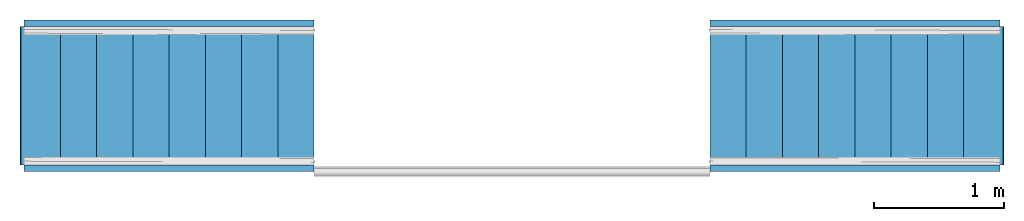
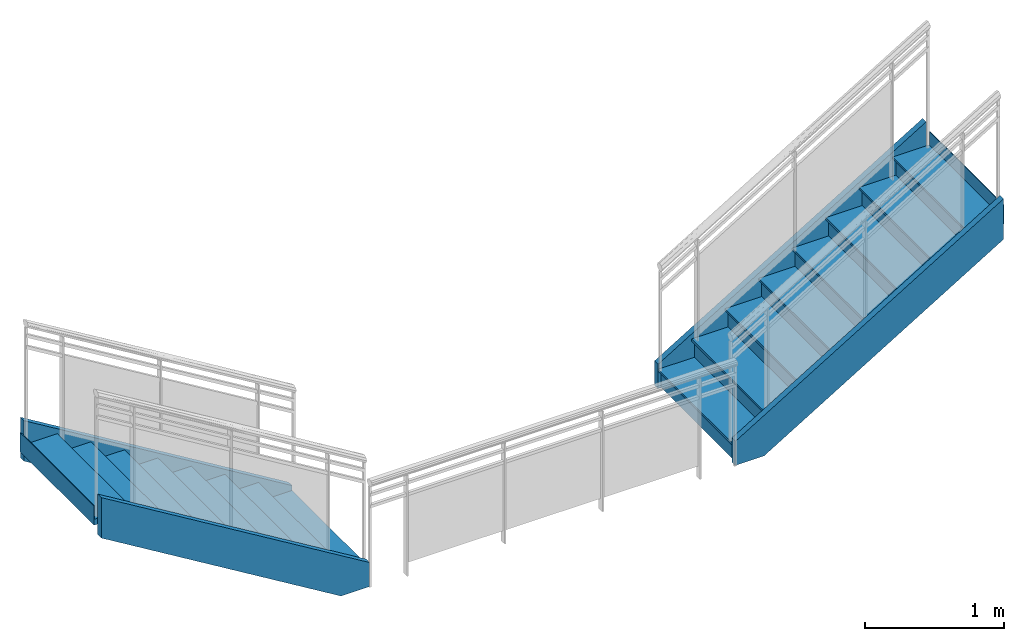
# One storey, part 1 of 4: 4 members, 2 stair flights, 2 elements without a shape of their own.
"""IFC2X3 building model written with IfcOpenShell, lengths in feet."""

from ifc_helpers import new_model, entity, si_unit, converted_unit, derived_unit, direction, frame, frame_2d, origin, origin_2d_with_axis, place, context, subcontext, project, spatial, polyline, rectangle, outline, extrude, type_object, element, aggregate, save


model = new_model("IFC2X3")

# Units and contexts
model_context = context("Model", 3, precision=0.0001, world=origin(), true_north=direction((6.12303176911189e-17, 1.0)))
body_context = subcontext(model_context, "Body", "Model", "MODEL_VIEW")
ifc_project = project(units=[converted_unit("LENGTHUNIT", "FOOT", entity("IfcRatioMeasure", 0.3048), si_unit("LENGTHUNIT", "METRE"), dimensions=[1, 0, 0, 0, 0, 0, 0]), converted_unit("AREAUNIT", "SQUARE FOOT", entity("IfcRatioMeasure", 0.09290304), si_unit("AREAUNIT", "SQUARE_METRE"), dimensions=[2, 0, 0, 0, 0, 0, 0]), converted_unit("VOLUMEUNIT", "CUBIC FOOT", entity("IfcRatioMeasure", 0.028316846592), si_unit("VOLUMEUNIT", "CUBIC_METRE"), dimensions=[3, 0, 0, 0, 0, 0, 0]), converted_unit("PLANEANGLEUNIT", "DEGREE", entity("IfcRatioMeasure", 0.0174532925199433), si_unit("PLANEANGLEUNIT", "RADIAN"), dimensions=[0, 0, 0, 0, 0, 0, 0]), si_unit("MASSUNIT", "GRAM", prefix="KILO"), derived_unit("MASSDENSITYUNIT", [(si_unit("MASSUNIT", "GRAM", prefix="KILO"), 1), (si_unit("LENGTHUNIT", "METRE"), -3)]), si_unit("TIMEUNIT", "SECOND"), si_unit("FREQUENCYUNIT", "HERTZ"), si_unit("THERMODYNAMICTEMPERATUREUNIT", "DEGREE_CELSIUS"), derived_unit("THERMALTRANSMITTANCEUNIT", [(si_unit("MASSUNIT", "GRAM", prefix="KILO"), 1), (si_unit("THERMODYNAMICTEMPERATUREUNIT", "KELVIN"), -1), (si_unit("TIMEUNIT", "SECOND"), -3)]), derived_unit("VOLUMETRICFLOWRATEUNIT", [(si_unit("LENGTHUNIT", "METRE"), 3), (si_unit("TIMEUNIT", "SECOND"), -1)]), si_unit("ELECTRICCURRENTUNIT", "AMPERE"), si_unit("ELECTRICVOLTAGEUNIT", "VOLT"), si_unit("POWERUNIT", "WATT"), si_unit("FORCEUNIT", "NEWTON"), si_unit("ILLUMINANCEUNIT", "LUX"), si_unit("LUMINOUSFLUXUNIT", "LUMEN"), si_unit("LUMINOUSINTENSITYUNIT", "CANDELA"), derived_unit("USERDEFINED", [(si_unit("MASSUNIT", "GRAM", prefix="KILO"), -1), (si_unit("LENGTHUNIT", "METRE"), -2), (si_unit("TIMEUNIT", "SECOND"), 3), (si_unit("LUMINOUSFLUXUNIT", "LUMEN"), 1)]), derived_unit("LINEARVELOCITYUNIT", [(si_unit("LENGTHUNIT", "METRE"), 1), (si_unit("TIMEUNIT", "SECOND"), -1)]), si_unit("PRESSUREUNIT", "PASCAL"), derived_unit("USERDEFINED", [(si_unit("LENGTHUNIT", "METRE"), -2), (si_unit("MASSUNIT", "GRAM", prefix="KILO"), 1), (si_unit("TIMEUNIT", "SECOND"), -2)])], contexts=[model_context])

# Site, building, storey
site_placement = place(None, origin())
site = spatial("IfcSite", under=ifc_project, at=site_placement, Name="Default", CompositionType="ELEMENT")
building_placement = place(site_placement, origin())
building = spatial("IfcBuilding", under=site, at=building_placement, CompositionType="ELEMENT")
storey_placement = place(building_placement, frame((0.0, 0.0, 55.0)))
storey = spatial("IfcBuildingStorey", under=building, at=storey_placement, Name="L 10", CompositionType="ELEMENT", Elevation=54.9999999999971)

# Stair, members
stair_1_placement = place(storey_placement, origin())
stair_1 = element("IfcStair", 1, at=stair_1_placement, inside=storey, Name="Assembled Stair:Stair", ObjectType="Assembled Stair:7\" max riser 11\" tread", ShapeType="NOTDEFINED")
member_type = type_object("IfcMemberType", Name="Stringer:Stringer - 2\" Width", PredefinedType="STRINGER")
member_1_placement = place(stair_1_placement, origin())
member_1 = element("IfcMember", 2, at=member_1_placement, type_object=member_type, Name="Assembled Stair:Stair:206445 Stringer 1", ObjectType="Assembled Stair:7\" max riser 11\" tread", context=body_context, shape_type="SweptSolid", body=[
    extrude(outline(polyline([(-3.08955742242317, -1.96146201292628), (-2.30843697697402, -1.96146201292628), (4.24377591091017, 2.00957610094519), (4.24377591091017, 3.17889618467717), (-3.08955742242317, -1.26554825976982), (-3.08955742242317, -1.96146201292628)])), frame((-42.0813868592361, -15.3369745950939, 1.96146201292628), z_axis=(0.0, 1.0, 0.0), x_axis=(-1.0, 0.0, 0.0)), (0.0, 0.0, 1.0), 0.166666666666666),
])
member_2_placement = place(stair_1_placement, origin())
member_2 = element("IfcMember", 3, at=member_2_placement, type_object=member_type, Name="Assembled Stair:Stair:206445 Stringer 2", ObjectType="Assembled Stair:7\" max riser 11\" tread", context=body_context, shape_type="SweptSolid", body=[
    extrude(outline(polyline([(-3.08955742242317, -1.96146201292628), (-2.30843697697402, -1.96146201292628), (4.24377591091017, 2.00957610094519), (4.24377591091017, 3.17889618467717), (-3.08955742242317, -1.26554825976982), (-3.08955742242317, -1.96146201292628)])), frame((-42.0813868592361, -11.6703079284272, 1.96146201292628), z_axis=(0.0, 1.0, 0.0), x_axis=(-1.0, 0.0, 0.0)), (0.0, 0.0, 1.0), 0.166666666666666),
])

stair_2_placement = place(storey_placement, origin())
stair_2 = element("IfcStair", 4, at=stair_2_placement, inside=storey, Name="Assembled Stair:Stair", ObjectType="Assembled Stair:7\" max riser 11\" tread", ShapeType="NOTDEFINED")
member_3_placement = place(stair_2_placement, origin())
member_3 = element("IfcMember", 5, at=member_3_placement, type_object=member_type, Name="Assembled Stair:Stair:206840 Stringer 1", ObjectType="Assembled Stair:7\" max riser 11\" tread", context=body_context, shape_type="SweptSolid", body=[
    extrude(outline(polyline([(-3.29811864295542, -0.519028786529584), (5.27689530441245, -0.519028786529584), (4.6708346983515, 0.480971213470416), (-2.99079942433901, 0.480971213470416), (-3.65881193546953, 0.0761151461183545), (-3.29811864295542, -0.519028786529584)])), frame((-25.9022720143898, -15.3369745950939, 1.96146201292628), z_axis=(0.0, 1.0, 0.0), x_axis=(0.855197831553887, 0.0, 0.518301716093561)), (0.0, 0.0, 1.0), 0.166666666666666),
])
member_4_placement = place(stair_2_placement, origin())
member_4 = element("IfcMember", 6, at=member_4_placement, type_object=member_type, Name="Assembled Stair:Stair:206840 Stringer 2", ObjectType="Assembled Stair:7\" max riser 11\" tread", context=body_context, shape_type="SweptSolid", body=[
    extrude(outline(polyline([(-3.29811864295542, -0.519028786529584), (5.27689530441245, -0.519028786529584), (4.6708346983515, 0.480971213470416), (-2.99079942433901, 0.480971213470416), (-3.65881193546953, 0.0761151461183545), (-3.29811864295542, -0.519028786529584)])), frame((-25.9022720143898, -11.6703079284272, 1.96146201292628), z_axis=(0.0, 1.0, 0.0), x_axis=(0.855197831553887, 0.0, 0.518301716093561)), (0.0, 0.0, 1.0), 0.166666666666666),
])

# Stair flight
stair_flight_1_placement = place(stair_1_placement, origin())
stair_flight_1 = element("IfcStairFlight", 7, at=stair_flight_1_placement, Name="Assembled Stair:Stair:206445 Run 1", ObjectType="Assembled Stair:7\" max riser 11\" tread", NumberOfRiser=9, NumberOfTreads=8, RiserHeight=0.555555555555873, TreadLength=0.916666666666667, context=body_context, shape_type="SweptSolid", body=[
    extrude(outline(polyline([(-0.0902777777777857, -0.361111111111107), (-0.0277777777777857, -0.361111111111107), (0.05555555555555, -0.277777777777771), (0.0763888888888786, -0.277777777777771), (0.0763888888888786, 0.638888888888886), (-0.0902777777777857, 0.638888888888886), (-0.0902777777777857, -0.361111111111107)])), frame((-39.352940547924, -15.1703079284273, 0.465277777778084), z_axis=(0.0, 1.0, 0.0), x_axis=(0.0, 0.0, -1.0)), (0.0, 0.0, 1.0), 3.5),
    extrude(rectangle(XDim=3.5, YDim=0.0208333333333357, at=frame_2d((0.0, -3.5527136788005e-15), x_axis=(1.0, 0.0))), frame((-39.0855794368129, -13.4203079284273, 0.0), z_axis=(0.0, 0.0, 1.0), x_axis=(0.0, -1.0, 0.0)), (0.0, 0.0, 1.0), 0.388888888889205),
    extrude(rectangle(XDim=3.5, YDim=0.0208333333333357, at=origin_2d_with_axis()), frame((-40.0022461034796, -13.4203079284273, 0.388888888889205), z_axis=(0.0, 0.0, 1.0), x_axis=(0.0, -1.0, 0.0)), (0.0, 0.0, 1.0), 0.555555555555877),
    extrude(outline(polyline([(-0.0902777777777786, -0.361111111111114), (-0.0277777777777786, -0.361111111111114), (0.05555555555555, -0.277777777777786), (0.0763888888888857, -0.277777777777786), (0.0763888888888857, 0.638888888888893), (-0.0902777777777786, 0.638888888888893), (-0.0902777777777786, -0.361111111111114)])), frame((-40.2696072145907, -15.1703079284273, 1.02083333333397), z_axis=(0.0, 1.0, 0.0), x_axis=(0.0, 0.0, -1.0)), (0.0, 0.0, 1.0), 3.5),
    extrude(rectangle(XDim=3.5, YDim=0.0208333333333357, at=origin_2d_with_axis()), frame((-40.9189127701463, -13.4203079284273, 0.944444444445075), z_axis=(0.0, 0.0, 1.0), x_axis=(0.0, -1.0, 0.0)), (0.0, 0.0, 1.0), 0.555555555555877),
    extrude(outline(polyline([(-0.0902777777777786, -0.361111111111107), (-0.0277777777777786, -0.361111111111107), (0.05555555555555, -0.277777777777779), (0.0763888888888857, -0.277777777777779), (0.0763888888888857, 0.6388888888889), (-0.0902777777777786, 0.6388888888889), (-0.0902777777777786, -0.361111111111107)])), frame((-41.1862738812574, -15.1703079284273, 1.57638888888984), z_axis=(0.0, 1.0, 0.0), x_axis=(0.0, 0.0, -1.0)), (0.0, 0.0, 1.0), 3.5),
    extrude(rectangle(XDim=3.5, YDim=0.0208333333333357, at=origin_2d_with_axis()), frame((-41.8355794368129, -13.4203079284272, 1.50000000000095), z_axis=(0.0, 0.0, 1.0), x_axis=(0.0, -1.0, 0.0)), (0.0, 0.0, 1.0), 0.555555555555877),
    extrude(outline(polyline([(-0.0902777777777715, -0.361111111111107), (-0.0277777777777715, -0.361111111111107), (0.0555555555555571, -0.277777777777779), (0.0763888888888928, -0.277777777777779), (0.0763888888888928, 0.6388888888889), (-0.0902777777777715, 0.6388888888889), (-0.0902777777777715, -0.361111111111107)])), frame((-42.102940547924, -15.1703079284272, 2.13194444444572), z_axis=(0.0, 1.0, 0.0), x_axis=(0.0, 0.0, -1.0)), (0.0, 0.0, 1.0), 3.5),
    extrude(rectangle(XDim=3.5, YDim=0.0208333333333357, at=origin_2d_with_axis()), frame((-42.7522461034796, -13.4203079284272, 2.05555555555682), z_axis=(0.0, 0.0, 1.0), x_axis=(0.0, -1.0, 0.0)), (0.0, 0.0, 1.0), 0.555555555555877),
    extrude(outline(polyline([(-0.0902777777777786, -0.361111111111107), (-0.0277777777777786, -0.361111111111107), (0.05555555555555, -0.277777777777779), (0.0763888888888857, -0.277777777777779), (0.0763888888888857, 0.6388888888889), (-0.0902777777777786, 0.6388888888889), (-0.0902777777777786, -0.361111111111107)])), frame((-43.0196072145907, -15.1703079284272, 2.68750000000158), z_axis=(0.0, 1.0, 0.0), x_axis=(0.0, 0.0, -1.0)), (0.0, 0.0, 1.0), 3.5),
    extrude(rectangle(XDim=3.5, YDim=0.0208333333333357, at=frame_2d((0.0, -7.105427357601e-15), x_axis=(1.0, 0.0))), frame((-43.6689127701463, -13.4203079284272, 2.6111111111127), z_axis=(0.0, 0.0, 1.0), x_axis=(0.0, -1.0, 0.0)), (0.0, 0.0, 1.0), 0.555555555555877),
    extrude(outline(polyline([(-0.0902777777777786, -0.361111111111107), (-0.0277777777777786, -0.361111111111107), (0.05555555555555, -0.277777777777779), (0.0763888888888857, -0.277777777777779), (0.0763888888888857, 0.6388888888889), (-0.0902777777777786, 0.6388888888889), (-0.0902777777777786, -0.361111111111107)])), frame((-43.9362738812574, -15.1703079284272, 3.24305555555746), z_axis=(0.0, 1.0, 0.0), x_axis=(0.0, 0.0, -1.0)), (0.0, 0.0, 1.0), 3.5),
    extrude(rectangle(XDim=3.5, YDim=0.0208333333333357, at=origin_2d_with_axis()), frame((-44.5855794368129, -13.4203079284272, 3.16666666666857), z_axis=(0.0, 0.0, 1.0), x_axis=(0.0, -1.0, 0.0)), (0.0, 0.0, 1.0), 0.555555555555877),
    extrude(outline(polyline([(-0.0902777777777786, -0.361111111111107), (-0.0277777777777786, -0.361111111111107), (0.05555555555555, -0.277777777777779), (0.0763888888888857, -0.277777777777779), (0.0763888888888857, 0.6388888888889), (-0.0902777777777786, 0.6388888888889), (-0.0902777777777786, -0.361111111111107)])), frame((-44.852940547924, -15.1703079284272, 3.79861111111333), z_axis=(0.0, 1.0, 0.0), x_axis=(0.0, 0.0, -1.0)), (0.0, 0.0, 1.0), 3.5),
    extrude(rectangle(XDim=3.5, YDim=0.0208333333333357, at=origin_2d_with_axis()), frame((-45.5022461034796, -13.4203079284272, 3.72222222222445), z_axis=(0.0, 0.0, 1.0), x_axis=(0.0, -1.0, 0.0)), (0.0, 0.0, 1.0), 0.555555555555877),
    extrude(rectangle(XDim=3.5, YDim=0.0208333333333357, at=frame_2d((0.0, -3.5527136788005e-15), x_axis=(1.0, 0.0))), frame((-46.4189127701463, -13.4203079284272, 4.27777777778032), z_axis=(0.0, 0.0, 1.0), x_axis=(0.0, -1.0, 0.0)), (0.0, 0.0, 1.0), 0.55555555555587),
    extrude(outline(polyline([(-0.0902777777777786, -0.361111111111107), (-0.0277777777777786, -0.361111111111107), (0.05555555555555, -0.277777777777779), (0.0763888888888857, -0.277777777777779), (0.0763888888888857, 0.6388888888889), (-0.0902777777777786, 0.6388888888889), (-0.0902777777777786, -0.361111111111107)])), frame((-45.7696072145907, -15.1703079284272, 4.35416666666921), z_axis=(0.0, 1.0, 0.0), x_axis=(0.0, 0.0, -1.0)), (0.0, 0.0, 1.0), 3.5),
])

aggregate(stair_1, [stair_flight_1, member_1, member_2])

stair_flight_2_placement = place(stair_2_placement, origin())
stair_flight_2 = element("IfcStairFlight", 8, at=stair_flight_2_placement, Name="Assembled Stair:Stair:206840 Run 1", ObjectType="Assembled Stair:7\" max riser 11\" tread", NumberOfRiser=9, NumberOfTreads=8, RiserHeight=0.555555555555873, TreadLength=0.916666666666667, context=body_context, shape_type="SweptSolid", body=[
    extrude(outline(polyline([(-0.0902777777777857, -0.638888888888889), (0.0763888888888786, -0.638888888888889), (0.0763888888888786, 0.277777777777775), (0.05555555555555, 0.277777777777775), (-0.0277777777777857, 0.361111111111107), (-0.0902777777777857, 0.361111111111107), (-0.0902777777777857, -0.638888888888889)])), frame((-28.6307183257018, -15.1703079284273, 0.465277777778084), z_axis=(0.0, 1.0, 0.0), x_axis=(0.0, 0.0, -1.0)), (0.0, 0.0, 1.0), 3.5),
    extrude(rectangle(XDim=3.5, YDim=0.0208333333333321, at=frame_2d((0.0, 1.77635683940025e-15), x_axis=(1.0, 0.0))), frame((-28.8980794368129, -13.4203079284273, 0.0), z_axis=(0.0, 0.0, 1.0), x_axis=(0.0, 1.0, 0.0)), (0.0, 0.0, 1.0), 0.388888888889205),
    extrude(rectangle(XDim=3.5, YDim=0.0208333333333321, at=frame_2d((0.0, -1.77635683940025e-15), x_axis=(1.0, 0.0))), frame((-27.9814127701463, -13.4203079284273, 0.388888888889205), z_axis=(0.0, 0.0, 1.0), x_axis=(0.0, 1.0, 0.0)), (0.0, 0.0, 1.0), 0.555555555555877),
    extrude(outline(polyline([(-0.0902777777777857, -0.638888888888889), (0.0763888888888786, -0.638888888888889), (0.0763888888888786, 0.277777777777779), (0.05555555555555, 0.277777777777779), (-0.0277777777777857, 0.361111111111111), (-0.0902777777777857, 0.361111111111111), (-0.0902777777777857, -0.638888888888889)])), frame((-27.7140516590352, -15.1703079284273, 1.02083333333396), z_axis=(0.0, 1.0, 0.0), x_axis=(0.0, 0.0, -1.0)), (0.0, 0.0, 1.0), 3.5),
    extrude(rectangle(XDim=3.5, YDim=0.0208333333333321, at=frame_2d((0.0, -1.77635683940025e-15), x_axis=(1.0, 0.0))), frame((-27.0647461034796, -13.4203079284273, 0.944444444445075), z_axis=(0.0, 0.0, 1.0), x_axis=(0.0, 1.0, 0.0)), (0.0, 0.0, 1.0), 0.555555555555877),
    extrude(outline(polyline([(-0.0902777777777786, -0.638888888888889), (0.0763888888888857, -0.638888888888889), (0.0763888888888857, 0.277777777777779), (0.0555555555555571, 0.277777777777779), (-0.0277777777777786, 0.361111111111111), (-0.0902777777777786, 0.361111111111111), (-0.0902777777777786, -0.638888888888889)])), frame((-26.7973849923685, -15.1703079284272, 1.57638888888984), z_axis=(0.0, 1.0, 0.0), x_axis=(0.0, 0.0, -1.0)), (0.0, 0.0, 1.0), 3.5),
    extrude(rectangle(XDim=3.5, YDim=0.0208333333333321, at=frame_2d((0.0, 1.77635683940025e-15), x_axis=(1.0, 0.0))), frame((-26.1480794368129, -13.4203079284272, 1.50000000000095), z_axis=(0.0, 0.0, 1.0), x_axis=(0.0, 1.0, 0.0)), (0.0, 0.0, 1.0), 0.555555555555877),
    extrude(outline(polyline([(-0.0902777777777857, -0.638888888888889), (0.0763888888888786, -0.638888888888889), (0.0763888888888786, 0.277777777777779), (0.05555555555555, 0.277777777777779), (-0.0277777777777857, 0.361111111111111), (-0.0902777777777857, 0.361111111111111), (-0.0902777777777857, -0.638888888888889)])), frame((-25.8807183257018, -15.1703079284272, 2.13194444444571), z_axis=(0.0, 1.0, 0.0), x_axis=(0.0, 0.0, -1.0)), (0.0, 0.0, 1.0), 3.5),
    extrude(rectangle(XDim=3.5, YDim=0.0208333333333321, at=frame_2d((0.0, -1.77635683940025e-15), x_axis=(1.0, 0.0))), frame((-25.2314127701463, -13.4203079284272, 2.05555555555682), z_axis=(0.0, 0.0, 1.0), x_axis=(0.0, 1.0, 0.0)), (0.0, 0.0, 1.0), 0.555555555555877),
    extrude(outline(polyline([(-0.0902777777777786, -0.638888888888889), (0.0763888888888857, -0.638888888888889), (0.0763888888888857, 0.277777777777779), (0.0555555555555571, 0.277777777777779), (-0.0277777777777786, 0.361111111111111), (-0.0902777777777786, 0.361111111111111), (-0.0902777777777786, -0.638888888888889)])), frame((-24.9640516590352, -15.1703079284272, 2.68750000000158), z_axis=(0.0, 1.0, 0.0), x_axis=(0.0, 0.0, -1.0)), (0.0, 0.0, 1.0), 3.5),
    extrude(rectangle(XDim=3.5, YDim=0.0208333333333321, at=frame_2d((0.0, -1.77635683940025e-15), x_axis=(1.0, 0.0))), frame((-24.3147461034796, -13.4203079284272, 2.6111111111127), z_axis=(0.0, 0.0, 1.0), x_axis=(0.0, 1.0, 0.0)), (0.0, 0.0, 1.0), 0.555555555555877),
    extrude(outline(polyline([(-0.0902777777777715, -0.638888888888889), (0.0763888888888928, -0.638888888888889), (0.0763888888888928, 0.277777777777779), (0.0555555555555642, 0.277777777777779), (-0.0277777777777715, 0.361111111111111), (-0.0902777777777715, 0.361111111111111), (-0.0902777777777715, -0.638888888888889)])), frame((-24.0473849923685, -15.1703079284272, 3.24305555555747), z_axis=(0.0, 1.0, 0.0), x_axis=(0.0, 0.0, -1.0)), (0.0, 0.0, 1.0), 3.5),
    extrude(rectangle(XDim=3.5, YDim=0.0208333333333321, at=frame_2d((0.0, 1.77635683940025e-15), x_axis=(1.0, 0.0))), frame((-23.3980794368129, -13.4203079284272, 3.16666666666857), z_axis=(0.0, 0.0, 1.0), x_axis=(0.0, 1.0, 0.0)), (0.0, 0.0, 1.0), 0.555555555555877),
    extrude(outline(polyline([(-0.0902777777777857, -0.638888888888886), (0.0763888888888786, -0.638888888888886), (0.0763888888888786, 0.277777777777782), (0.05555555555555, 0.277777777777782), (-0.0277777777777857, 0.361111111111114), (-0.0902777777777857, 0.361111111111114), (-0.0902777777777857, -0.638888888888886)])), frame((-23.1307183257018, -15.1703079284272, 3.79861111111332), z_axis=(0.0, 1.0, 0.0), x_axis=(0.0, 0.0, -1.0)), (0.0, 0.0, 1.0), 3.5),
    extrude(rectangle(XDim=3.5, YDim=0.0208333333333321, at=frame_2d((0.0, -1.77635683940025e-15), x_axis=(1.0, 0.0))), frame((-22.4814127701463, -13.4203079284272, 3.72222222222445), z_axis=(0.0, 0.0, 1.0), x_axis=(0.0, 1.0, 0.0)), (0.0, 0.0, 1.0), 0.555555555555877),
    extrude(rectangle(XDim=3.5, YDim=0.0208333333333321, at=frame_2d((0.0, 1.77635683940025e-15), x_axis=(1.0, 0.0))), frame((-21.5647461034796, -13.4203079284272, 4.27777777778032), z_axis=(0.0, 0.0, 1.0), x_axis=(0.0, 1.0, 0.0)), (0.0, 0.0, 1.0), 0.55555555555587),
    extrude(outline(polyline([(-0.0902777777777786, -0.638888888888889), (0.0763888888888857, -0.638888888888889), (0.0763888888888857, 0.277777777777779), (0.0555555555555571, 0.277777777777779), (-0.0277777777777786, 0.361111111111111), (-0.0902777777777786, 0.361111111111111), (-0.0902777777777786, -0.638888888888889)])), frame((-22.2140516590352, -15.1703079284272, 4.35416666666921), z_axis=(0.0, 1.0, 0.0), x_axis=(0.0, 0.0, -1.0)), (0.0, 0.0, 1.0), 3.5),
])

aggregate(stair_2, [stair_flight_2, member_3, member_4])

save(model, "model.ifc")
